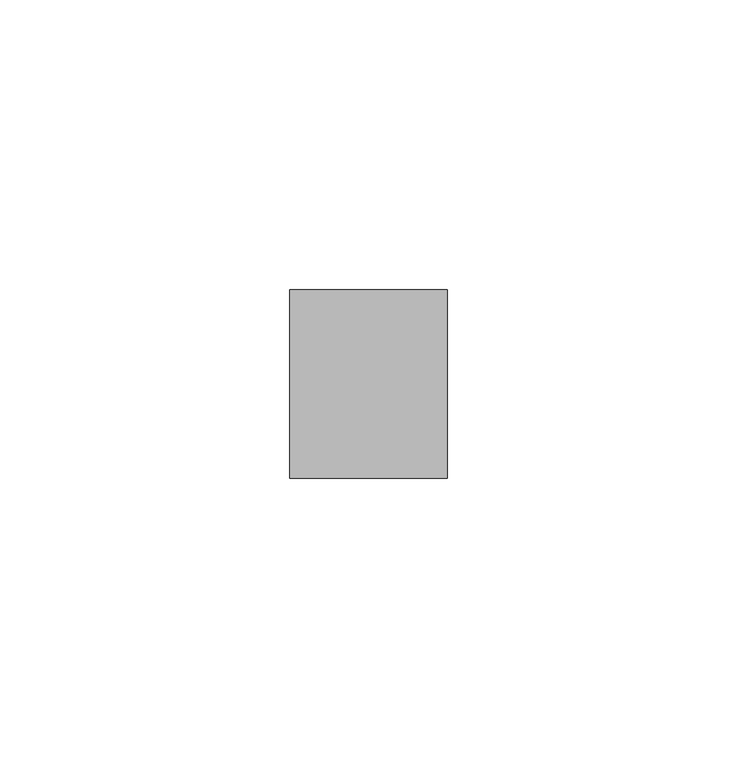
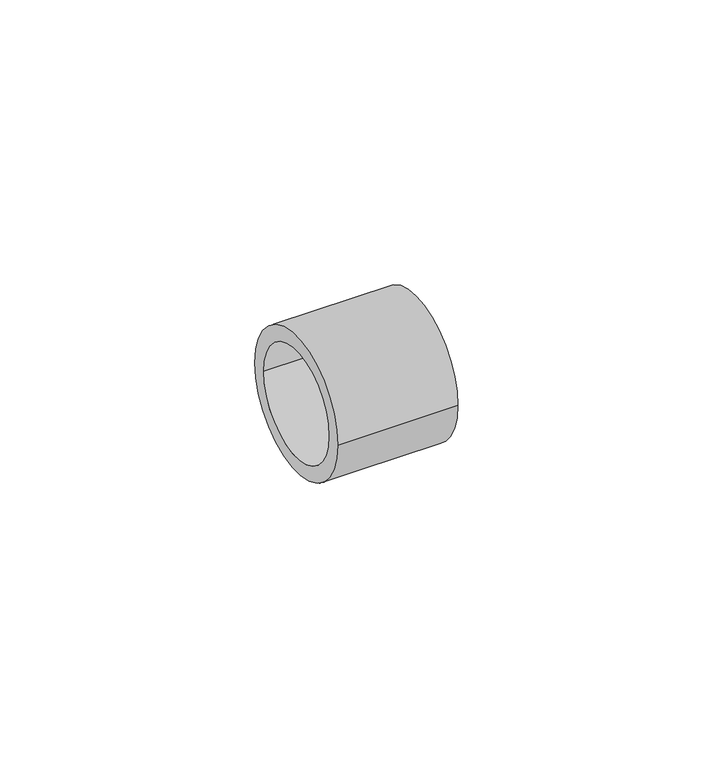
"""IFC4 building model written with IfcOpenShell, lengths in millimetres: pipe fitting geometry, RAUTITAN_Sleeve PX : RTI S PX."""

from ifc_helpers import new_model, si_unit, point, frame, origin, origin_2d, place, context, project, spatial, circle_curve, trimmed, segment, composite_curve, outline, extrude, source, transform, mapped, element, save


def pipe_fitting_037c3912(model_context):
    return source(origin(), model_context, "Body", "SweptSolid", [
        extrude(outline(composite_curve([segment(trimmed(circle_curve(origin_2d(), 16.3), [point((-16.3, 0.0))], [point((16.3, 0.0))], False, "CARTESIAN"), True, "CONTINUOUS"), segment(trimmed(circle_curve(origin_2d(), 16.3), [point((16.3, 0.0))], [point((-16.3, 0.0))], False, "CARTESIAN"), True, "CONTINUOUS")], self_intersect=False), holes=[composite_curve([segment(trimmed(circle_curve(origin_2d(), 12.8), [point((-12.8, 0.0))], [point((12.8, 0.0))], True, "CARTESIAN"), True, "CONTINUOUS"), segment(trimmed(circle_curve(origin_2d(), 12.8), [point((12.8, 0.0))], [point((-12.8, 0.0))], True, "CARTESIAN"), True, "CONTINUOUS")], self_intersect=False)]), frame((0.0, 0.0, 0.0), z_axis=(1.0, 0.0, 0.0), x_axis=(0.0, 1.0, 0.0)), (0.0, 0.0, 1.0), 27.2),
    ])


if __name__ == "__main__":
    model = new_model("IFC4")
    model_context = context("Model", 3, world=origin())
    ifc_project = project(units=[si_unit("LENGTHUNIT", "METRE", prefix="MILLI")], contexts=[model_context])
    site = spatial("IfcSite", under=ifc_project)
    building = spatial("IfcBuilding", under=site)
    placement = place(None, origin())
    pipe_fitting_shape = pipe_fitting_037c3912(model_context)
    element("IfcPipeFitting", 1, ObjectType="RAUTITAN_Sleeve PX : RTI S PX", at=placement, inside=building, context=model_context, shape_type="MappedRepresentation", body=[
        mapped(pipe_fitting_shape, transform((0.0, 0.0, 0.0), x_axis=(1.0, 0.0, 0.0), y_axis=(0.0, 1.0, 0.0), z_axis=(0.0, 0.0, 1.0))),
    ])
    save(model, "model.ifc")
